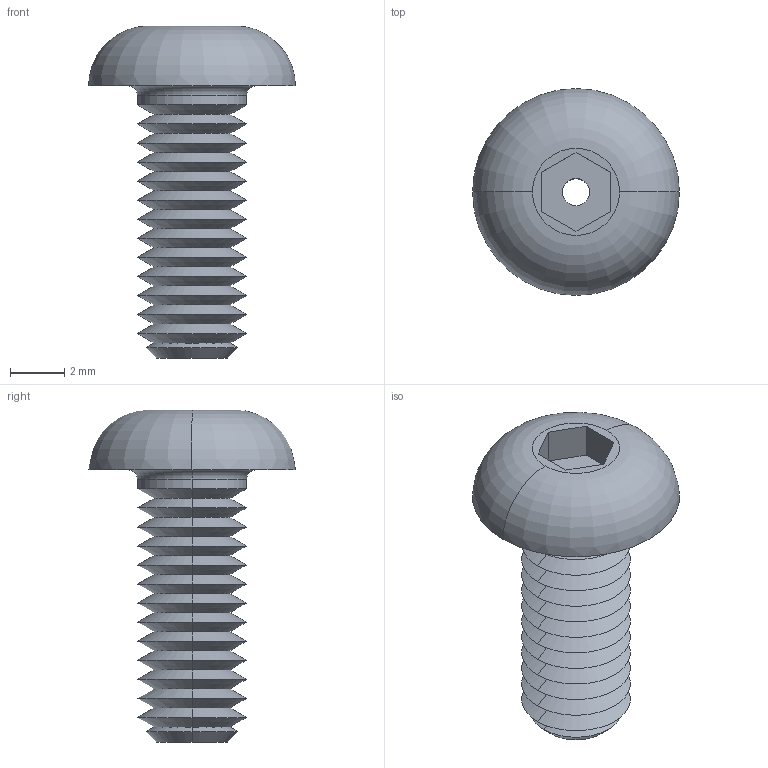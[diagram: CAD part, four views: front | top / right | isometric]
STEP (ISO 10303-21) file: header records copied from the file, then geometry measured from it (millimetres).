
FILE_DESCRIPTION (( 'STEP AP203' ), '1' );
FILE_NAME ('P0094.040-010-A2.step', '2019-07-12T16:52:18', ( '' ), ( '' ), 'SwSTEP 2.0', 'SolidWorks 2017', '' );
FILE_SCHEMA (( 'CONFIG_CONTROL_DESIGN' ));
Length unit declared in the file: millimetre
Products named in the file (1): P0094.040-010-A2
Bounding box: 7.6 x 7.6 x 12.2 mm (x, y, z)
Volume: 155.7 mm3; surface area: 357.1 mm2
Topology: 1 solids, 1 shells, 72 faces, 148 edges, 80 vertices
Faces by surface type: cone 54, plane 10, cylinder 4, torus 4
Entity records: 1937 total; most frequent: DIRECTION 366, CARTESIAN_POINT 301, ORIENTED_EDGE 296, EDGE_CURVE 148, AXIS2_PLACEMENT_3D 145, VERTEX_POINT 80, LINE 76, EDGE_LOOP 76
